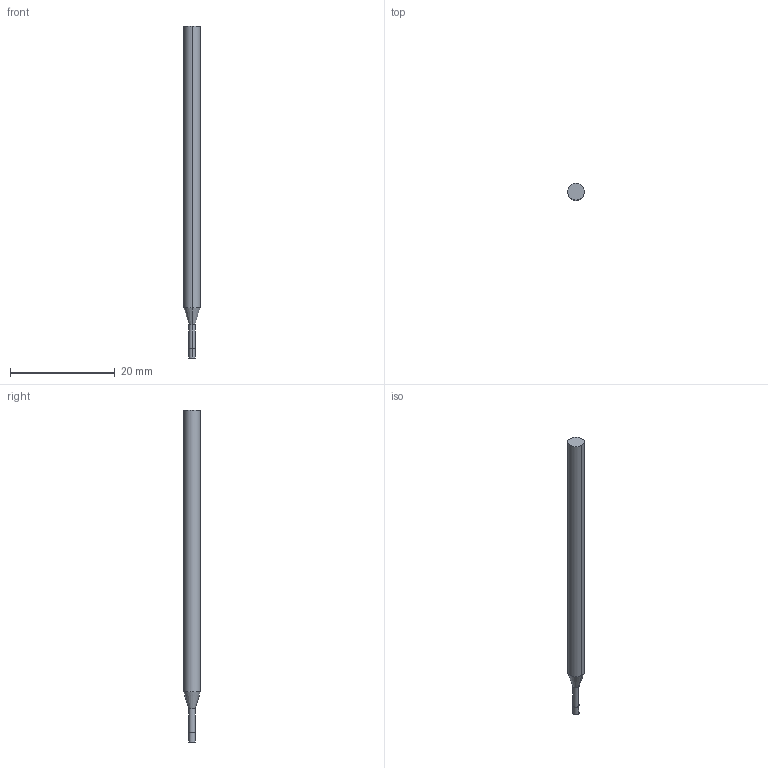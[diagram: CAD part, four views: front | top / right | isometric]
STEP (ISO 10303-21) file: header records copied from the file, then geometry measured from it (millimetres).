
FILE_DESCRIPTION((' '),'2;1');
FILE_NAME( '3MVS0468N5AH.stp', '2026-01-21T19:07:15', (' '), ('--- Datakit www.datakit.com---'), ' Datakit CrossCadWare V2025.4 Sep 19 2025', 'Mastercam 2027', ' ');
FILE_SCHEMA(('AUTOMOTIVE_DESIGN { 1 0 10303 214 1 1 1 1 }'));
Length unit declared in the file: inch
Products named in the file (1): 3MVS0468N5AH
Bounding box: 3.17 x 3.17 x 63.5 mm (x, y, z)
Volume: 446.8 mm3; surface area: 593.7 mm2
Topology: 1 solids, 1 shells, 10 faces, 18 edges, 10 vertices
Faces by surface type: cylinder 6, plane 2, cone 2
Entity records: 323 total; most frequent: DIRECTION 58, CARTESIAN_POINT 43, ORIENTED_EDGE 36, AXIS2_PLACEMENT_3D 25, EDGE_CURVE 18, VERTEX_POINT 10, CIRCLE 10, EDGE_LOOP 10
